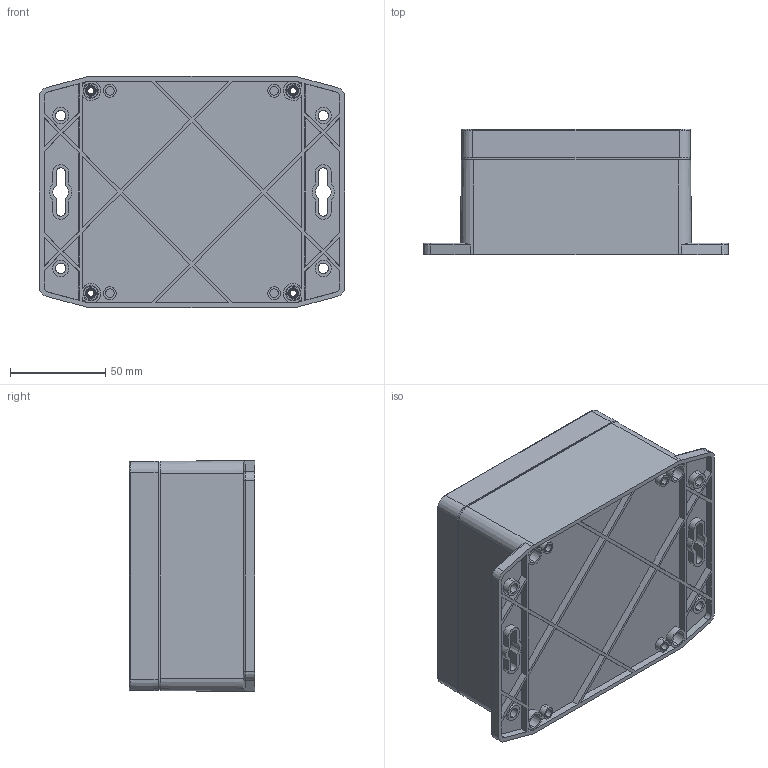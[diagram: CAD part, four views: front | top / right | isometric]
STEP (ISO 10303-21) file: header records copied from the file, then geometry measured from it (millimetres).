
FILE_DESCRIPTION (( 'STEP AP203' ), '1' );
FILE_NAME ('PF230.STEP', '2021-06-11T08:00:22', ( '' ), ( '' ), 'SwSTEP 2.0', 'SolidWorks 2021', '' );
FILE_SCHEMA (( 'CONFIG_CONTROL_DESIGN' ));
Length unit declared in the file: millimetre
Products named in the file (4): PF230
Assembly tree (3 placements, depth 2):
  PF230
    PF230
    PF230
    PF230
Bounding box: 159.8 x 65.7 x 120.98 mm (x, y, z)
Volume: 240971.4 mm3; surface area: 182022.6 mm2
Topology: 7 solids, 7 shells, 1153 faces, 3076 edges, 2020 vertices
Faces by surface type: plane 377, cylinder 310, bspline 232, cone 226, torus 8
Entity records: 38914 total; most frequent: CARTESIAN_POINT 10781, ORIENTED_EDGE 6112, DIRECTION 5360, EDGE_CURVE 3056, VERTEX_POINT 2020, AXIS2_PLACEMENT_3D 1935, LINE 1490, VECTOR 1490
